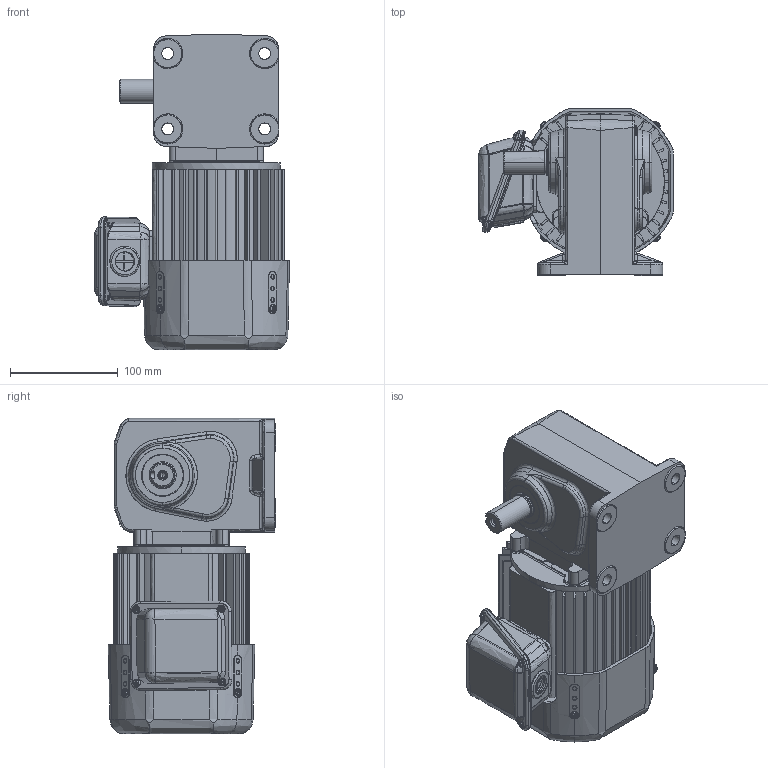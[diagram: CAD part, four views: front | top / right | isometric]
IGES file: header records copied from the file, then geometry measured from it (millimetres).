
Start section: SolidWorks IGES file using analytic representation for surfaces
Global section: file name: \\100.100.100.8\1_共有作業フォルダ\1-5_３Ｄデータ\solidworks\personal-folder\H.Nagayama\HL外形\HL(3D)\igs\TMHLB-02-(5~60)A.IGS; native system: SolidWorks 2018; preprocessor: SolidWorks 2018; author: sigma-giken; date: 200324.145847; units: millimetre
Bounding box: 181 x 155.5 x 293.1 mm (x, y, z)
Surface area: 444725 mm2 (no closed solid volume)
Topology: 0 solids, 0 shells, 1884 faces, 24368 edges, 24283 vertices
Faces by surface type: bspline 965, revolution 919
